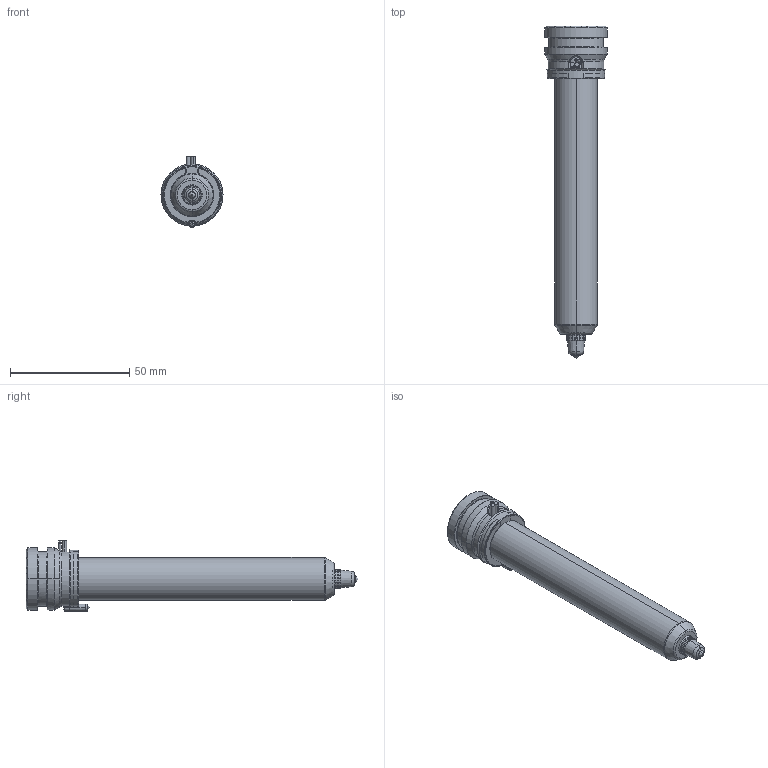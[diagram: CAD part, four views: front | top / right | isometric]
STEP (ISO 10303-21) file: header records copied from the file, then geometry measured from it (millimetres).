
FILE_DESCRIPTION((''),'2;1');
FILE_NAME('TH18121-A-1B50-PK-JG','2023-12-14T',('umhib'),('Thermoplay S.p.A.'),'PRO/ENGINEER BY PARAMETRIC TECHNOLOGY CORPORATION, 2017170','PRO/ENGINEER BY PARAMETRIC TECHNOLOGY CORPORATION, 2017170','');
FILE_SCHEMA(('CONFIG_CONTROL_DESIGN'));
Length unit declared in the file: millimetre
Products named in the file (1): TH18121-A-1B50-PK-JG
Bounding box: 26 x 139 x 29.5 mm (x, y, z)
Volume: 27769.7 mm3; surface area: 20308.6 mm2
Topology: 1 solids, 2 shells, 394 faces, 1026 edges, 637 vertices
Faces by surface type: cylinder 151, plane 85, cone 66, torus 54, bspline 24, sphere 12, extrusion 2
Entity records: 17998 total; most frequent: CARTESIAN_POINT 6175, ORIENTED_EDGE 2028, DIRECTION 2015, EDGE_CURVE 1016, AXIS2_PLACEMENT_3D 808, VERTEX_POINT 637, CIRCLE 439, EDGE_LOOP 414
